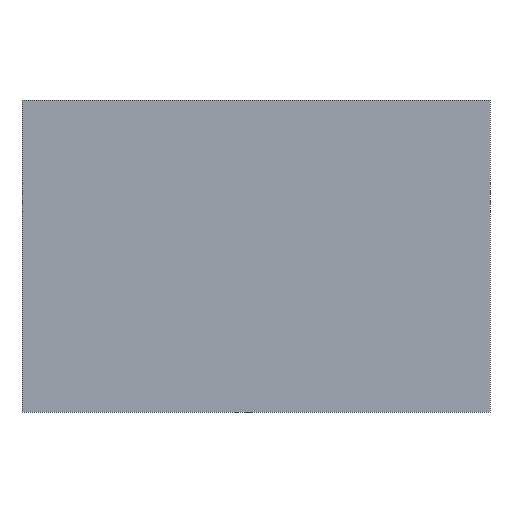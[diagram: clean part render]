
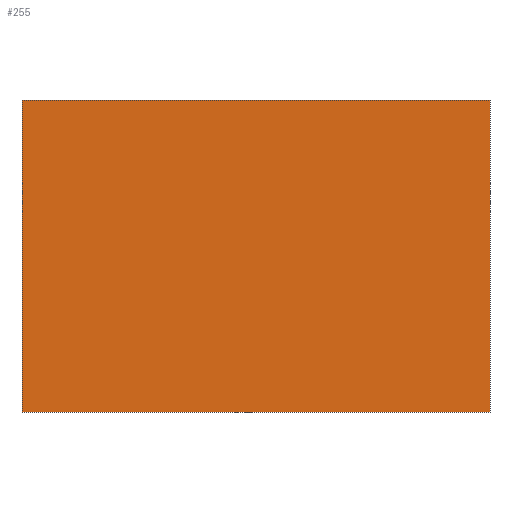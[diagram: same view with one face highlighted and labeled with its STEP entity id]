
A CAD part, front view. The second image highlights one B-rep face of the part: STEP entity #255.
In plain terms, the highlighted planar face has unit normal (0, -1, 0).
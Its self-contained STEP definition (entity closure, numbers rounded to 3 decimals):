
#39 = EDGE_CURVE('',#40,#42,#44,.T.);
#40 = VERTEX_POINT('',#41);
#41 = CARTESIAN_POINT('',(-30.,-4.,-20.));
#42 = VERTEX_POINT('',#43);
#43 = CARTESIAN_POINT('',(-30.,-4.,20.));
#44 = SURFACE_CURVE('',#45,(#49,#61),.PCURVE_S1.);
#45 = LINE('',#46,#47);
#46 = CARTESIAN_POINT('',(-30.,-4.,-20.));
#47 = VECTOR('',#48,1.);
#48 = DIRECTION('',(0.,0.,1.));
#49 = PCURVE('',#50,#55);
#50 = PLANE('',#51);
#51 = AXIS2_PLACEMENT_3D('',#52,#53,#54);
#52 = CARTESIAN_POINT('',(-30.,-4.,-20.));
#53 = DIRECTION('',(1.,0.,-0.));
#54 = DIRECTION('',(0.,0.,1.));
#55 = DEFINITIONAL_REPRESENTATION('',(#56),#60);
#56 = LINE('',#57,#58);
#57 = CARTESIAN_POINT('',(0.,0.));
#58 = VECTOR('',#59,1.);
#59 = DIRECTION('',(1.,0.));
#60 = ( GEOMETRIC_REPRESENTATION_CONTEXT(2) 
PARAMETRIC_REPRESENTATION_CONTEXT() REPRESENTATION_CONTEXT('2D SPACE',''
  ) );
#61 = PCURVE('',#62,#67);
#62 = PLANE('',#63);
#63 = AXIS2_PLACEMENT_3D('',#64,#65,#66);
#64 = CARTESIAN_POINT('',(-30.,-4.,-20.));
#65 = DIRECTION('',(-0.,1.,0.));
#66 = DIRECTION('',(0.,0.,1.));
#67 = DEFINITIONAL_REPRESENTATION('',(#68),#72);
#68 = LINE('',#69,#70);
#69 = CARTESIAN_POINT('',(0.,0.));
#70 = VECTOR('',#71,1.);
#71 = DIRECTION('',(1.,0.));
#72 = ( GEOMETRIC_REPRESENTATION_CONTEXT(2) 
PARAMETRIC_REPRESENTATION_CONTEXT() REPRESENTATION_CONTEXT('2D SPACE',''
  ) );
#90 = PLANE('',#91);
#91 = AXIS2_PLACEMENT_3D('',#92,#93,#94);
#92 = CARTESIAN_POINT('',(-30.,-4.,-20.));
#93 = DIRECTION('',(0.,0.,1.));
#94 = DIRECTION('',(1.,0.,-0.));
#144 = PLANE('',#145);
#145 = AXIS2_PLACEMENT_3D('',#146,#147,#148);
#146 = CARTESIAN_POINT('',(-30.,-4.,20.));
#147 = DIRECTION('',(0.,0.,1.));
#148 = DIRECTION('',(1.,0.,-0.));
#159 = EDGE_CURVE('',#160,#162,#164,.T.);
#160 = VERTEX_POINT('',#161);
#161 = CARTESIAN_POINT('',(30.,-4.,-20.));
#162 = VERTEX_POINT('',#163);
#163 = CARTESIAN_POINT('',(30.,-4.,20.));
#164 = SURFACE_CURVE('',#165,(#169,#181),.PCURVE_S1.);
#165 = LINE('',#166,#167);
#166 = CARTESIAN_POINT('',(30.,-4.,-20.));
#167 = VECTOR('',#168,1.);
#168 = DIRECTION('',(0.,0.,1.));
#169 = PCURVE('',#170,#175);
#170 = PLANE('',#171);
#171 = AXIS2_PLACEMENT_3D('',#172,#173,#174);
#172 = CARTESIAN_POINT('',(30.,-4.,-20.));
#173 = DIRECTION('',(1.,0.,-0.));
#174 = DIRECTION('',(0.,0.,1.));
#175 = DEFINITIONAL_REPRESENTATION('',(#176),#180);
#176 = LINE('',#177,#178);
#177 = CARTESIAN_POINT('',(0.,0.));
#178 = VECTOR('',#179,1.);
#179 = DIRECTION('',(1.,0.));
#180 = ( GEOMETRIC_REPRESENTATION_CONTEXT(2) 
PARAMETRIC_REPRESENTATION_CONTEXT() REPRESENTATION_CONTEXT('2D SPACE',''
  ) );
#181 = PCURVE('',#62,#182);
#182 = DEFINITIONAL_REPRESENTATION('',(#183),#187);
#183 = LINE('',#184,#185);
#184 = CARTESIAN_POINT('',(0.,60.));
#185 = VECTOR('',#186,1.);
#186 = DIRECTION('',(1.,0.));
#187 = ( GEOMETRIC_REPRESENTATION_CONTEXT(2) 
PARAMETRIC_REPRESENTATION_CONTEXT() REPRESENTATION_CONTEXT('2D SPACE',''
  ) );
#255 = ADVANCED_FACE('',(#256),#62,.F.);
#256 = FACE_BOUND('',#257,.F.);
#257 = EDGE_LOOP('',(#258,#279,#280,#301));
#258 = ORIENTED_EDGE('',*,*,#259,.F.);
#259 = EDGE_CURVE('',#40,#160,#260,.T.);
#260 = SURFACE_CURVE('',#261,(#265,#272),.PCURVE_S1.);
#261 = LINE('',#262,#263);
#262 = CARTESIAN_POINT('',(-30.,-4.,-20.));
#263 = VECTOR('',#264,1.);
#264 = DIRECTION('',(1.,0.,-0.));
#265 = PCURVE('',#62,#266);
#266 = DEFINITIONAL_REPRESENTATION('',(#267),#271);
#267 = LINE('',#268,#269);
#268 = CARTESIAN_POINT('',(0.,0.));
#269 = VECTOR('',#270,1.);
#270 = DIRECTION('',(0.,1.));
#271 = ( GEOMETRIC_REPRESENTATION_CONTEXT(2) 
PARAMETRIC_REPRESENTATION_CONTEXT() REPRESENTATION_CONTEXT('2D SPACE',''
  ) );
#272 = PCURVE('',#90,#273);
#273 = DEFINITIONAL_REPRESENTATION('',(#274),#278);
#274 = LINE('',#275,#276);
#275 = CARTESIAN_POINT('',(0.,0.));
#276 = VECTOR('',#277,1.);
#277 = DIRECTION('',(1.,0.));
#278 = ( GEOMETRIC_REPRESENTATION_CONTEXT(2) 
PARAMETRIC_REPRESENTATION_CONTEXT() REPRESENTATION_CONTEXT('2D SPACE',''
  ) );
#279 = ORIENTED_EDGE('',*,*,#39,.T.);
#280 = ORIENTED_EDGE('',*,*,#281,.T.);
#281 = EDGE_CURVE('',#42,#162,#282,.T.);
#282 = SURFACE_CURVE('',#283,(#287,#294),.PCURVE_S1.);
#283 = LINE('',#284,#285);
#284 = CARTESIAN_POINT('',(-30.,-4.,20.));
#285 = VECTOR('',#286,1.);
#286 = DIRECTION('',(1.,0.,-0.));
#287 = PCURVE('',#62,#288);
#288 = DEFINITIONAL_REPRESENTATION('',(#289),#293);
#289 = LINE('',#290,#291);
#290 = CARTESIAN_POINT('',(40.,0.));
#291 = VECTOR('',#292,1.);
#292 = DIRECTION('',(0.,1.));
#293 = ( GEOMETRIC_REPRESENTATION_CONTEXT(2) 
PARAMETRIC_REPRESENTATION_CONTEXT() REPRESENTATION_CONTEXT('2D SPACE',''
  ) );
#294 = PCURVE('',#144,#295);
#295 = DEFINITIONAL_REPRESENTATION('',(#296),#300);
#296 = LINE('',#297,#298);
#297 = CARTESIAN_POINT('',(0.,0.));
#298 = VECTOR('',#299,1.);
#299 = DIRECTION('',(1.,0.));
#300 = ( GEOMETRIC_REPRESENTATION_CONTEXT(2) 
PARAMETRIC_REPRESENTATION_CONTEXT() REPRESENTATION_CONTEXT('2D SPACE',''
  ) );
#301 = ORIENTED_EDGE('',*,*,#159,.F.);
